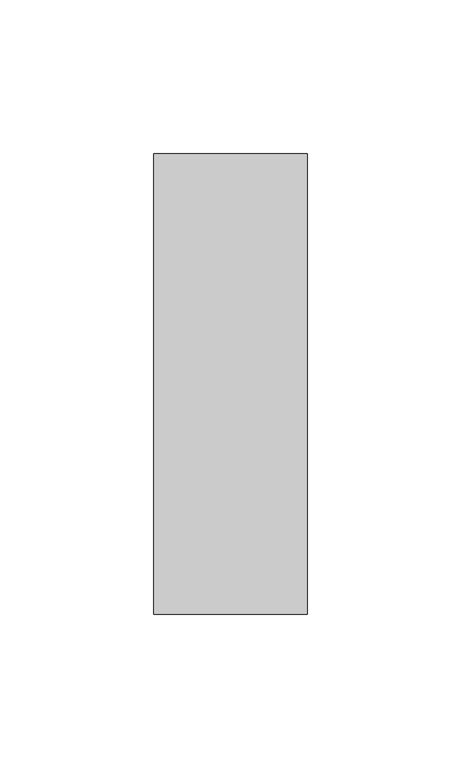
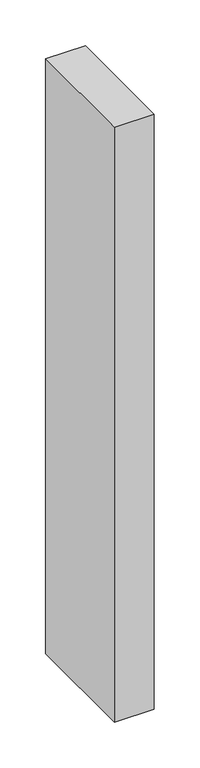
"""IFC4 building model written with IfcOpenShell, lengths in millimetres: member geometry, Прямоугольный импост : 50 x 150 мм."""

import ifcopenshell
import ifcopenshell.guid

model = None  # the IFC model being written
_history = None  # IfcOwnerHistory: only IFC2X3 demands one
_inside = {}  # id of a spatial element -> (the spatial element, [elements in it])
_under = {}  # id of a project, library or spatial element -> (it, [spatial elements below it])
_declared = {}  # id of a project -> (the project, [libraries it declares])
_typed = {}  # id of a type object -> (the type object, [elements of that type])
_made_of = {}  # id of a material, layer set ... -> (it, [elements and type objects made of it])


def new_model(schema):
    """Start an empty IFC model of exactly this schema.

    Asked for "IFC4X3", IfcOpenShell would pick the latest addendum, in which some entities
    have other attributes; the version numbers below select the first issue.
    IFC2X3 requires an IfcOwnerHistory on every rooted entity: one is made here for all.
    """
    global model, _history
    if schema == "IFC4X3":
        model = ifcopenshell.file(schema_version=(4, 3, 0, 0))
    else:
        model = ifcopenshell.file(schema=schema)
    _inside.clear()
    _under.clear()
    _declared.clear()
    _typed.clear()
    _made_of.clear()
    _history = None
    if model.schema == "IFC2X3":
        org = make("IfcOrganization", Name="unknown")
        user = make(
            "IfcPersonAndOrganization",
            ThePerson=make("IfcPerson", FamilyName="unknown"),
            TheOrganization=org,
        )
        app = make(
            "IfcApplication",
            ApplicationDeveloper=org,
            Version="unknown",
            ApplicationFullName="unknown",
            ApplicationIdentifier="unknown",
        )
        _history = make(
            "IfcOwnerHistory",
            OwningUser=user,
            OwningApplication=app,
            ChangeAction="ADDED",
            CreationDate=0,
        )
    return model


def make(cls, **values):
    """One entity of the class cls with the attributes given. An attribute that is None is left unset."""
    return model.create_entity(
        cls, **{name: value for name, value in values.items() if value is not None}
    )


def rooted(cls, **values):
    """An entity with a GlobalId (a new one), such as an element, a storey or a relation."""
    return make(cls, GlobalId=ifcopenshell.guid.new(), OwnerHistory=_history, **values)


def si_unit(unit_type, name, prefix=None):
    """IfcSIUnit, for example si_unit("LENGTHUNIT", "METRE", prefix="MILLI")."""
    return make("IfcSIUnit", UnitType=unit_type, Prefix=prefix, Name=name)


def assignment(units):
    """IfcUnitAssignment: the units of a project."""
    return None if units is None else make("IfcUnitAssignment", Units=units)


def point(xyz):
    """IfcCartesianPoint."""
    return None if xyz is None else make("IfcCartesianPoint", Coordinates=xyz)


def direction(xyz):
    """IfcDirection."""
    return None if xyz is None else make("IfcDirection", DirectionRatios=xyz)


def frame(location, z_axis=None, x_axis=None):
    """IfcAxis2Placement3D, a coordinate frame: its origin and axes. An axis left out is left unset."""
    return make(
        "IfcAxis2Placement3D",
        Location=point(location),
        Axis=direction(z_axis),
        RefDirection=direction(x_axis),
    )


def origin():
    """The frame at (0, 0, 0) with its axes left unset."""
    return frame((0.0, 0.0, 0.0))


def place(relative_to, where):
    """IfcLocalPlacement: puts the frame where relative to a parent placement (None: the world)."""
    return make(
        "IfcLocalPlacement", PlacementRelTo=relative_to, RelativePlacement=where
    )


def context(
    kind, dimensions, precision=None, world=None, true_north=None, identifier=None
):
    """IfcGeometricRepresentationContext, for example the 3D "Model" context."""
    return make(
        "IfcGeometricRepresentationContext",
        ContextIdentifier=identifier,
        ContextType=kind,
        CoordinateSpaceDimension=dimensions,
        Precision=precision,
        WorldCoordinateSystem=world,
        TrueNorth=true_north,
    )


def project(units=None, contexts=None):
    """IfcProject with its units and contexts."""
    return rooted(
        "IfcProject",
        Name="project",
        RepresentationContexts=contexts,
        UnitsInContext=assignment(units),
    )


def spatial(cls, under=None, at=None, **own):
    """A site, building, storey or space (cls), placed at a placement, below another one or the project."""
    s = rooted(cls, ObjectPlacement=at, **own)
    if under is not None:
        _under.setdefault(under.id(), (under, []))[1].append(s)
    return s


def polyline(points):
    """IfcPolyline through the points."""
    return make("IfcPolyline", Points=[point(p) for p in points])


def outline(outer, holes=None, kind="AREA"):
    """IfcArbitraryClosedProfileDef: a profile drawn as a closed curve; with holes, ...WithVoids."""
    if holes is None:
        return make("IfcArbitraryClosedProfileDef", ProfileType=kind, OuterCurve=outer)
    return make(
        "IfcArbitraryProfileDefWithVoids",
        ProfileType=kind,
        OuterCurve=outer,
        InnerCurves=holes,
    )


def extrude(swept, where, along, depth):
    """IfcExtrudedAreaSolid: the profile swept, set in the frame where, extruded along a direction by depth."""
    return make(
        "IfcExtrudedAreaSolid",
        SweptArea=swept,
        Position=where,
        ExtrudedDirection=direction(along),
        Depth=depth,
    )


def shape(context_of_items, identifier, shape_type, items):
    """IfcShapeRepresentation: the items that make up one representation, for example the "Body"."""
    return make(
        "IfcShapeRepresentation",
        ContextOfItems=context_of_items,
        RepresentationIdentifier=identifier,
        RepresentationType=shape_type,
        Items=items,
    )


def source(mapping_origin, context_of_items, identifier, shape_type, items):
    """IfcRepresentationMap: a shape defined once, which mapped items show again and again."""
    return make(
        "IfcRepresentationMap",
        MappingOrigin=mapping_origin,
        MappedRepresentation=shape(context_of_items, identifier, shape_type, items),
    )


def transform(
    local_origin,
    x_axis=None,
    y_axis=None,
    z_axis=None,
    scale=None,
    scale2=None,
    scale3=None,
    uniform=True,
):
    """IfcCartesianTransformationOperator3D, or its non-uniform kind. x_axis, y_axis, z_axis: its Axis1, 2, 3."""
    if uniform:
        return make(
            "IfcCartesianTransformationOperator3D",
            Axis1=direction(x_axis),
            Axis2=direction(y_axis),
            LocalOrigin=point(local_origin),
            Scale=scale,
            Axis3=direction(z_axis),
        )
    return make(
        "IfcCartesianTransformationOperator3DnonUniform",
        Axis1=direction(x_axis),
        Axis2=direction(y_axis),
        LocalOrigin=point(local_origin),
        Scale=scale,
        Axis3=direction(z_axis),
        Scale2=scale2,
        Scale3=scale3,
    )


def mapped(mapping_source, mapping_target):
    """IfcMappedItem: shows the shape of a source again, moved by a transform."""
    return make(
        "IfcMappedItem", MappingSource=mapping_source, MappingTarget=mapping_target
    )


def made_of(thing, what):
    """Note that an element or type object is made of a material, layer set ...; save() writes the relation."""
    if what is not None:
        _made_of.setdefault(what.id(), (what, []))[1].append(thing)
    return thing


def element(
    cls,
    number,
    at=None,
    inside=None,
    cuts=None,
    type_object=None,
    material=None,
    context=None,
    identifier="Body",
    shape_type=None,
    held_by="IfcProductDefinitionShape",
    body=None,
    shapes=None,
    **own,
):
    """One element of the class cls, such as IfcWall. Its Tag is "e" and its number.

    at: its placement. inside: the storey or other place that contains it. cuts: it is an
    opening in that element (IfcRelVoidsElement). A single representation is given by context,
    identifier, shape_type and body (its items); several are given by shapes. held_by: the class
    of the entity that holds the representations. save() writes the other relations.
    """
    e = rooted(cls, Tag="e%d" % number, ObjectPlacement=at, **own)
    if body is not None:
        shapes = [shape(context, identifier, shape_type, body)]
    if shapes is not None:
        e.Representation = make(held_by, Representations=shapes)
    if inside is not None:
        _inside.setdefault(inside.id(), (inside, []))[1].append(e)
    if cuts is not None:
        rooted(
            "IfcRelVoidsElement", RelatingBuildingElement=cuts, RelatedOpeningElement=e
        )
    if type_object is not None:
        _typed.setdefault(type_object.id(), (type_object, []))[1].append(e)
    return made_of(e, material)


def aggregate(whole, parts):
    """IfcRelAggregates: a whole, such as a stair, and the parts it consists of."""
    return rooted("IfcRelAggregates", RelatingObject=whole, RelatedObjects=parts)


def save(model, path):
    """Write the relations noted so far, then the file.

    IfcRelAggregates (storeys below a building ...), IfcRelContainedInSpatialStructure (elements
    in a storey), IfcRelDefinesByType, IfcRelAssociatesMaterial and IfcRelDeclares: one each for
    every whole, place, type object, material and project.
    """
    for whole, parts in _under.values():
        aggregate(whole, parts)
    for where, things in _inside.values():
        rooted(
            "IfcRelContainedInSpatialStructure",
            RelatedElements=things,
            RelatingStructure=where,
        )
    for kind, things in _typed.values():
        rooted("IfcRelDefinesByType", RelatedObjects=things, RelatingType=kind)
    for what, things in _made_of.values():
        rooted("IfcRelAssociatesMaterial", RelatedObjects=things, RelatingMaterial=what)
    for by, libraries in _declared.values():
        rooted("IfcRelDeclares", RelatingContext=by, RelatedDefinitions=libraries)
    model.write(path)


def member_055729b7(model_context):
    return source(origin(), model_context, "Body", "SweptSolid", [
        extrude(outline(polyline([(25.0, 75.0), (25.0, -75.0), (-25.0, -75.0), (-25.0, 75.0), (25.0, 75.0)])), frame((0.0, 0.0, -792.0051859), z_axis=(0.0, 0.0, 1.0), x_axis=(1.0, 0.0, 0.0)), (0.0, 0.0, 1.0), 792.0051859),
    ])


if __name__ == "__main__":
    model = new_model("IFC4")
    model_context = context("Model", 3, world=origin())
    ifc_project = project(units=[si_unit("LENGTHUNIT", "METRE", prefix="MILLI")], contexts=[model_context])
    site = spatial("IfcSite", under=ifc_project)
    building = spatial("IfcBuilding", under=site)
    placement = place(None, origin())
    member_shape = member_055729b7(model_context)
    element("IfcMember", 1, ObjectType="Прямоугольный импост : 50 x 150 мм", at=placement, inside=building, context=model_context, shape_type="MappedRepresentation", body=[
        mapped(member_shape, transform((0.0, 0.0, 0.0), x_axis=(1.0, 0.0, 0.0), y_axis=(0.0, 1.0, 0.0), z_axis=(0.0, 0.0, 1.0))),
    ])
    save(model, "model.ifc")
